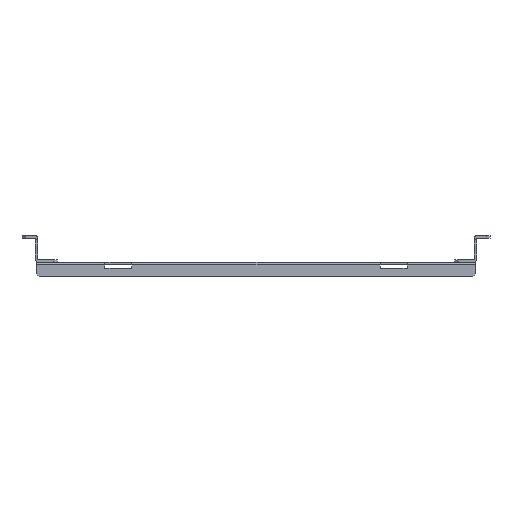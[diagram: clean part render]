
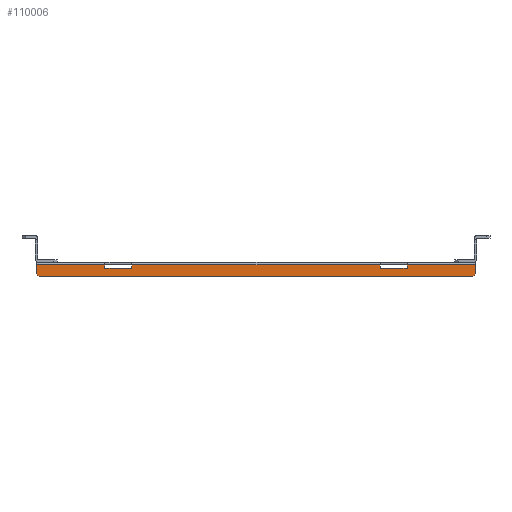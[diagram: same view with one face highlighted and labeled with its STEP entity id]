
A CAD part, front view. The second image highlights one B-rep face of the part: STEP entity #110006.
In plain terms, the highlighted planar face has unit normal (0, -1, 0).
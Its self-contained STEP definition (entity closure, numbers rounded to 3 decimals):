
#105996=CARTESIAN_POINT(' ',(102.,-399.,-2.1));
#105997=VERTEX_POINT(' ',#105996);
#106011=CARTESIAN_POINT(' ',(102.,-399.,-5.));
#106016=DIRECTION(' ',(0.,0.,1.));
#106021=VECTOR(' ',#106016,1.);
#106026=LINE('',#106011,#106021);
#106031=CARTESIAN_POINT(' ',(102.,-399.,-5.));
#106032=VERTEX_POINT(' ',#106031);
#106036=EDGE_CURVE(' ',#106032,#105997,#106026,.T.);
#106386=CARTESIAN_POINT(' ',(-102.,-399.,-5.));
#106387=VERTEX_POINT(' ',#106386);
#106401=CARTESIAN_POINT(' ',(-102.,-399.,-2.1));
#106406=DIRECTION(' ',(0.,0.,-1.));
#106411=VECTOR(' ',#106406,1.);
#106416=LINE('',#106401,#106411);
#106421=CARTESIAN_POINT(' ',(-102.,-399.,-2.1));
#106422=VERTEX_POINT(' ',#106421);
#106426=EDGE_CURVE(' ',#106422,#106387,#106416,.T.);
#106946=CARTESIAN_POINT(' ',(124.,-399.,-2.1));
#106951=DIRECTION(' ',(1.,0.,0.));
#106956=VECTOR(' ',#106951,1.);
#106961=LINE('',#106946,#106956);
#106966=CARTESIAN_POINT(' ',(124.,-399.,-2.1));
#106967=VERTEX_POINT(' ',#106966);
#106971=CARTESIAN_POINT(' ',(180.,-399.,-2.1));
#106972=VERTEX_POINT(' ',#106971);
#106976=EDGE_CURVE(' ',#106967,#106972,#106961,.T.);
#107126=CARTESIAN_POINT(' ',(-124.,-399.,-2.1));
#107127=VERTEX_POINT(' ',#107126);
#107171=CARTESIAN_POINT(' ',(-180.,-399.,-2.1));
#107172=VERTEX_POINT(' ',#107171);
#107186=CARTESIAN_POINT(' ',(-180.,-399.,-2.1));
#107191=DIRECTION(' ',(1.,0.,0.));
#107196=VECTOR(' ',#107191,1.);
#107201=LINE('',#107186,#107196);
#107206=EDGE_CURVE(' ',#107172,#107127,#107201,.T.);
#107566=CARTESIAN_POINT(' ',(-102.,-399.,-2.1));
#107571=DIRECTION(' ',(1.,0.,0.));
#107576=VECTOR(' ',#107571,1.);
#107581=LINE('',#107566,#107576);
#107586=EDGE_CURVE(' ',#106422,#105997,#107581,.T.);
#109056=CARTESIAN_POINT(' ',(124.,-399.,-2.1));
#109061=DIRECTION(' ',(0.,0.,-1.));
#109066=VECTOR(' ',#109061,1.);
#109071=LINE('',#109056,#109066);
#109076=CARTESIAN_POINT(' ',(124.,-399.,-5.));
#109077=VERTEX_POINT(' ',#109076);
#109081=EDGE_CURVE(' ',#106967,#109077,#109071,.T.);
#109201=CARTESIAN_POINT(' ',(-124.,-399.,-5.));
#109206=DIRECTION(' ',(0.,0.,1.));
#109211=VECTOR(' ',#109206,1.);
#109216=LINE('',#109201,#109211);
#109221=CARTESIAN_POINT(' ',(-124.,-399.,-5.));
#109222=VERTEX_POINT(' ',#109221);
#109226=EDGE_CURVE(' ',#109222,#107127,#109216,.T.);
#109706=DIRECTION(' ',(-0.,-1.,0.));
#109711=CARTESIAN_POINT(' ',(-180.,-399.,-11.5));
#109716=DIRECTION(' ',(1.,-0.,0.));
#109721=AXIS2_PLACEMENT_3D(' ',#109711,#109706,#109716);
#109726=PLANE('NONE',#109721);
#109731=ORIENTED_EDGE(' ',*,*,#109081,.T.);
#109736=CARTESIAN_POINT(' ',(124.,-399.,-5.));
#109741=DIRECTION(' ',(-1.,0.,0.));
#109746=VECTOR(' ',#109741,1.);
#109751=LINE('',#109736,#109746);
#109756=EDGE_CURVE(' ',#109077,#106032,#109751,.T.);
#109761=ORIENTED_EDGE(' ',*,*,#109756,.T.);
#109766=ORIENTED_EDGE(' ',*,*,#106036,.T.);
#109771=ORIENTED_EDGE(' ',*,*,#107586,.F.);
#109776=ORIENTED_EDGE(' ',*,*,#106426,.T.);
#109781=CARTESIAN_POINT(' ',(-102.,-399.,-5.));
#109786=DIRECTION(' ',(-1.,0.,0.));
#109791=VECTOR(' ',#109786,1.);
#109796=LINE('',#109781,#109791);
#109801=EDGE_CURVE(' ',#106387,#109222,#109796,.T.);
#109806=ORIENTED_EDGE(' ',*,*,#109801,.T.);
#109811=ORIENTED_EDGE(' ',*,*,#109226,.T.);
#109816=ORIENTED_EDGE(' ',*,*,#107206,.F.);
#109821=CARTESIAN_POINT(' ',(-180.,-399.,-2.1));
#109826=DIRECTION(' ',(0.,0.,-1.));
#109831=VECTOR(' ',#109826,1.);
#109836=LINE('',#109821,#109831);
#109841=CARTESIAN_POINT(' ',(-180.,-399.,-9.5));
#109842=VERTEX_POINT(' ',#109841);
#109846=EDGE_CURVE(' ',#107172,#109842,#109836,.T.);
#109851=ORIENTED_EDGE(' ',*,*,#109846,.T.);
#109856=CARTESIAN_POINT(' ',(-180.,-399.,-9.5));
#109861=DIRECTION(' ',(0.707,0.,-0.707));
#109866=VECTOR(' ',#109861,1.);
#109871=LINE('',#109856,#109866);
#109876=CARTESIAN_POINT(' ',(-178.,-399.,-11.5));
#109877=VERTEX_POINT(' ',#109876);
#109881=EDGE_CURVE(' ',#109842,#109877,#109871,.T.);
#109886=ORIENTED_EDGE(' ',*,*,#109881,.T.);
#109891=CARTESIAN_POINT(' ',(-178.,-399.,-11.5));
#109896=DIRECTION(' ',(1.,0.,0.));
#109901=VECTOR(' ',#109896,1.);
#109906=LINE('',#109891,#109901);
#109911=CARTESIAN_POINT(' ',(178.,-399.,-11.5));
#109912=VERTEX_POINT(' ',#109911);
#109916=EDGE_CURVE(' ',#109877,#109912,#109906,.T.);
#109921=ORIENTED_EDGE(' ',*,*,#109916,.T.);
#109926=CARTESIAN_POINT(' ',(178.,-399.,-11.5));
#109931=DIRECTION(' ',(0.707,0.,0.707));
#109936=VECTOR(' ',#109931,1.);
#109941=LINE('',#109926,#109936);
#109946=CARTESIAN_POINT(' ',(180.,-399.,-9.5));
#109947=VERTEX_POINT(' ',#109946);
#109951=EDGE_CURVE(' ',#109912,#109947,#109941,.T.);
#109956=ORIENTED_EDGE(' ',*,*,#109951,.T.);
#109961=CARTESIAN_POINT(' ',(180.,-399.,-9.5));
#109966=DIRECTION(' ',(0.,0.,1.));
#109971=VECTOR(' ',#109966,1.);
#109976=LINE('',#109961,#109971);
#109981=EDGE_CURVE(' ',#109947,#106972,#109976,.T.);
#109986=ORIENTED_EDGE(' ',*,*,#109981,.T.);
#109991=ORIENTED_EDGE(' ',*,*,#106976,.F.);
#109996=EDGE_LOOP(' ',(#109731,#109761,#109766,#109771,#109776,#109806,#109811,#109816,#109851,#109886,#109921,#109956,#109986,#109991));
#110001=FACE_OUTER_BOUND(' ',#109996,.T.);
#110006=ADVANCED_FACE('NONE',(#110001),#109726,.T.);
